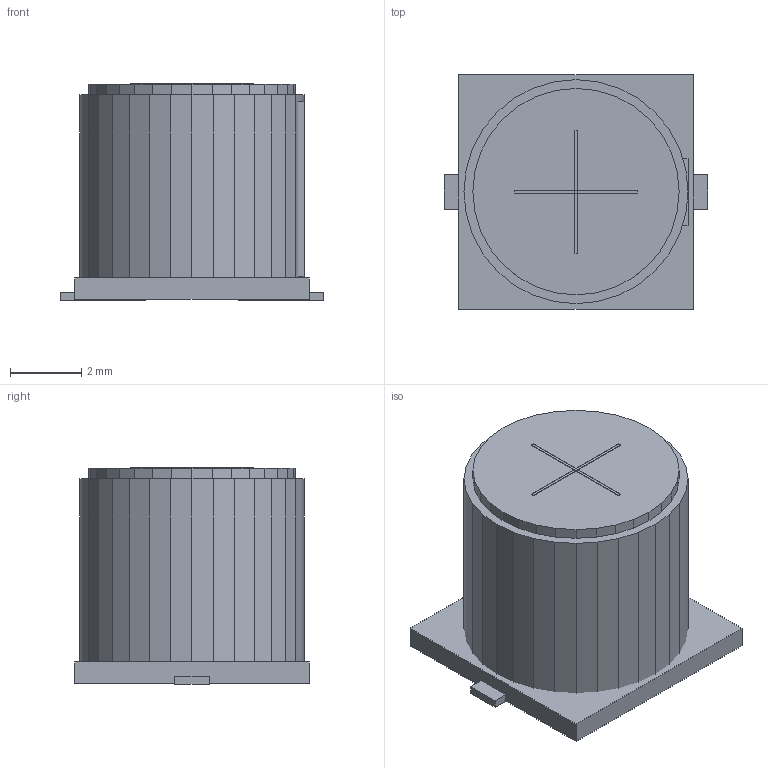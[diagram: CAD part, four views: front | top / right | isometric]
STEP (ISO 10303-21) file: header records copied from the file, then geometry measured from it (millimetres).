
FILE_DESCRIPTION(('FreeCAD Model'),'2;1');
FILE_NAME('Open CASCADE Shape Model','2026-09-21T21:53:17',('FreeCAD'),( 'FreeCAD'),'Open CASCADE STEP processor 7.8','FreeCAD','Unknown');
FILE_SCHEMA(('AUTOMOTIVE_DESIGN { 1 0 10303 214 1 1 1 1 }'));
Length unit declared in the file: millimetre
Products named in the file (1): Open CASCADE STEP translator 7.8 8
Bounding box: 7.4 x 6.6 x 6.09 mm (x, y, z)
Volume: 198.9 mm3; surface area: 361.8 mm2
Topology: 8 solids, 8 shells, 104 faces, 264 edges, 176 vertices
Faces by surface type: plane 104
Entity records: 3064 total; most frequent: CARTESIAN_POINT 545, ORIENTED_EDGE 528, DIRECTION 474, EDGE_CURVE 264, LINE 264, VECTOR 264, VERTEX_POINT 176, AXIS2_PLACEMENT_3D 105
